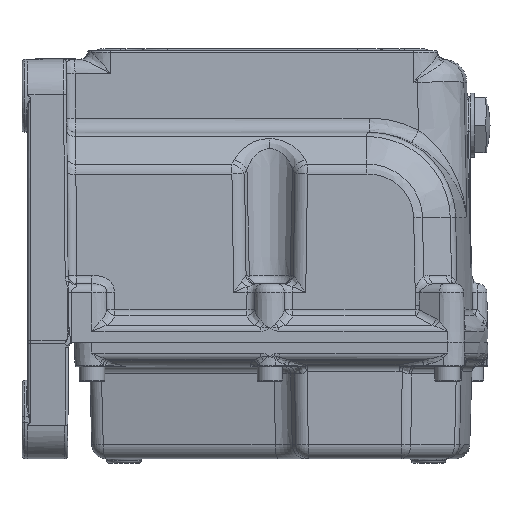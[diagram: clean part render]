
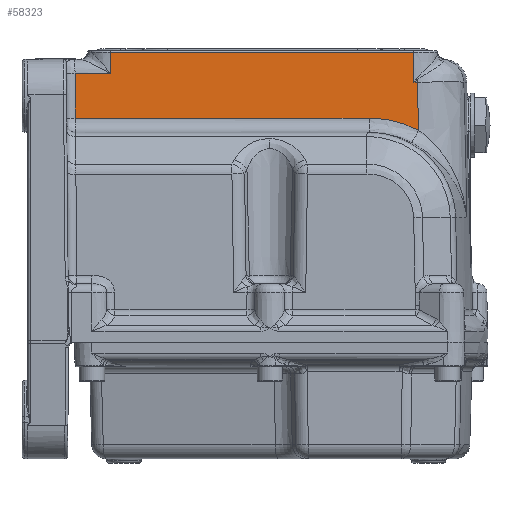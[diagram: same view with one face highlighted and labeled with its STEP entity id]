
A CAD part, left-side view. The second image highlights one B-rep face of the part: STEP entity #58323.
In plain terms, the highlighted planar face has unit normal (-1, 0, 0.026).
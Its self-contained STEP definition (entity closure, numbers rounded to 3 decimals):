
#172=PLANE('',#62811);
#5510=LINE('',#90239,#8848);
#5511=LINE('',#90242,#8849);
#5512=LINE('',#90244,#8850);
#5513=LINE('',#90246,#8851);
#5514=LINE('',#90248,#8852);
#5515=LINE('',#90250,#8853);
#5516=LINE('',#90268,#8854);
#8848=VECTOR('',#69641,1000.);
#8849=VECTOR('',#69642,1000.);
#8850=VECTOR('',#69643,1000.);
#8851=VECTOR('',#69644,1000.);
#8852=VECTOR('',#69645,1000.);
#8853=VECTOR('',#69646,1000.);
#8854=VECTOR('',#69647,1000.);
#14186=ORIENTED_EDGE('',*,*,#32317,.F.);
#14187=ORIENTED_EDGE('',*,*,#32318,.T.);
#14188=ORIENTED_EDGE('',*,*,#32319,.T.);
#14189=ORIENTED_EDGE('',*,*,#32320,.T.);
#14190=ORIENTED_EDGE('',*,*,#32321,.T.);
#14191=ORIENTED_EDGE('',*,*,#32322,.T.);
#14192=ORIENTED_EDGE('',*,*,#32323,.T.);
#14193=ORIENTED_EDGE('',*,*,#32324,.T.);
#14194=ORIENTED_EDGE('',*,*,#32325,.T.);
#32317=EDGE_CURVE('',#41355,#41356,#5510,.T.);
#32318=EDGE_CURVE('',#41355,#41357,#5511,.T.);
#32319=EDGE_CURVE('',#41357,#41358,#5512,.T.);
#32320=EDGE_CURVE('',#41358,#41359,#5513,.T.);
#32321=EDGE_CURVE('',#41359,#41360,#5514,.T.);
#32322=EDGE_CURVE('',#41360,#41361,#5515,.T.);
#32323=EDGE_CURVE('',#41361,#41362,#46032,.T.);
#32324=EDGE_CURVE('',#41362,#41363,#46033,.T.);
#32325=EDGE_CURVE('',#41363,#41356,#5516,.T.);
#41355=VERTEX_POINT('',#90240);
#41356=VERTEX_POINT('',#90241);
#41357=VERTEX_POINT('',#90243);
#41358=VERTEX_POINT('',#90245);
#41359=VERTEX_POINT('',#90247);
#41360=VERTEX_POINT('',#90249);
#41361=VERTEX_POINT('',#90251);
#41362=VERTEX_POINT('',#90262);
#41363=VERTEX_POINT('',#90267);
#46032=B_SPLINE_CURVE_WITH_KNOTS('',3,(#90252,#90253,#90254,#90255,#90256,
#90257,#90258,#90259,#90260,#90261),.UNSPECIFIED.,.F.,.F.,(4,2,2,2,4),(0.,
0.009,0.011,0.013,0.018),
 .UNSPECIFIED.);
#46033=B_SPLINE_CURVE_WITH_KNOTS('',3,(#90263,#90264,#90265,#90266),
 .UNSPECIFIED.,.F.,.F.,(4,4),(0.005,0.022),
 .PIECEWISE_BEZIER_KNOTS.);
#48670=EDGE_LOOP('',(#14186,#14187,#14188,#14189,#14190,#14191,#14192,#14193,
#14194));
#52977=FACE_BOUND('',#48670,.T.);
#58323=ADVANCED_FACE('',(#52977),#172,.F.);
#62811=AXIS2_PLACEMENT_3D('',#90238,#69639,#69640);
#69639=DIRECTION('',(1.,0.,-0.026));
#69640=DIRECTION('',(0.,-1.,0.));
#69641=DIRECTION('',(-0.026,0.,-1.));
#69642=DIRECTION('',(0.,1.,0.));
#69643=DIRECTION('',(-0.026,0.,-1.));
#69644=DIRECTION('',(0.,1.,0.));
#69645=DIRECTION('',(-0.026,-0.009,-1.));
#69646=DIRECTION('',(0.,-1.,0.));
#69647=DIRECTION('',(0.,1.,0.));
#90238=CARTESIAN_POINT('',(-35.,93.5,97.));
#90239=CARTESIAN_POINT('',(-35.,-49.5,97.));
#90240=CARTESIAN_POINT('',(-34.934,-49.5,99.513));
#90241=CARTESIAN_POINT('',(-35.204,-49.5,89.209));
#90242=CARTESIAN_POINT('',(-34.934,93.5,99.513));
#90243=CARTESIAN_POINT('',(-34.934,54.5,99.513));
#90244=CARTESIAN_POINT('',(-35.,54.5,97.));
#90245=CARTESIAN_POINT('',(-35.128,54.5,92.131));
#90246=CARTESIAN_POINT('',(-35.128,69.847,92.131));
#90247=CARTESIAN_POINT('',(-35.128,66.805,92.131));
#90248=CARTESIAN_POINT('',(-34.994,66.849,97.232));
#90249=CARTESIAN_POINT('',(-35.527,66.671,76.869));
#90250=CARTESIAN_POINT('',(-35.527,93.5,76.869));
#90251=CARTESIAN_POINT('',(-35.527,-34.088,76.869));
#90252=CARTESIAN_POINT('',(-35.527,-34.088,76.869));
#90253=CARTESIAN_POINT('',(-35.527,-37.051,76.869));
#90254=CARTESIAN_POINT('',(-35.536,-39.955,76.519));
#90255=CARTESIAN_POINT('',(-35.559,-43.513,75.65));
#90256=CARTESIAN_POINT('',(-35.564,-44.22,75.455));
#90257=CARTESIAN_POINT('',(-35.576,-45.629,75.019));
#90258=CARTESIAN_POINT('',(-35.582,-46.33,74.778));
#90259=CARTESIAN_POINT('',(-35.602,-48.406,73.994));
#90260=CARTESIAN_POINT('',(-35.618,-49.754,73.388));
#90261=CARTESIAN_POINT('',(-35.636,-51.065,72.697));
#90262=CARTESIAN_POINT('',(-35.636,-51.065,72.697));
#90263=CARTESIAN_POINT('',(-35.636,-51.065,72.697));
#90264=CARTESIAN_POINT('',(-35.492,-50.936,78.201));
#90265=CARTESIAN_POINT('',(-35.348,-50.806,83.705));
#90266=CARTESIAN_POINT('',(-35.204,-50.676,89.209));
#90267=CARTESIAN_POINT('',(-35.204,-50.676,89.209));
#90268=CARTESIAN_POINT('',(-35.204,-49.5,89.209));
